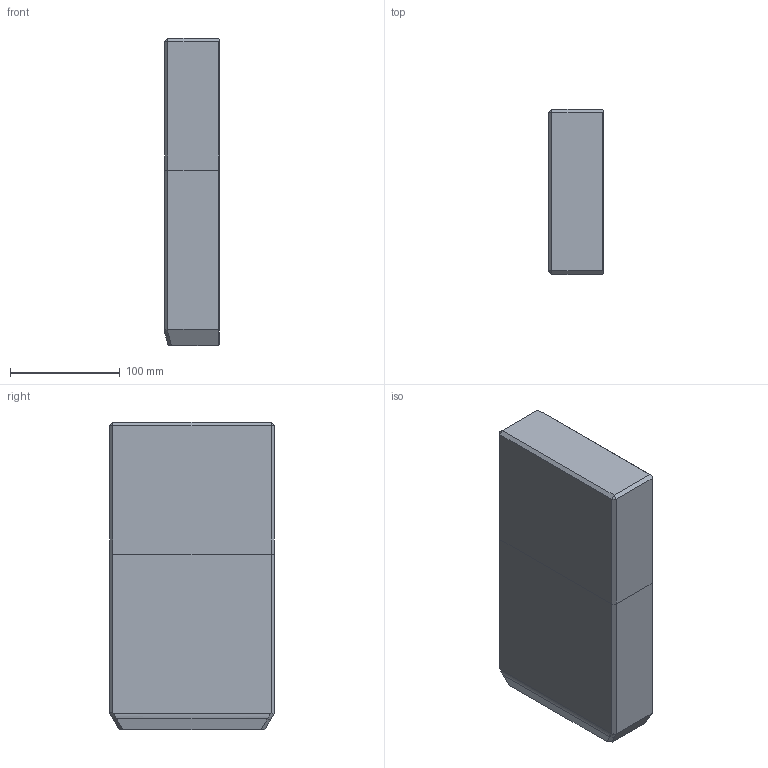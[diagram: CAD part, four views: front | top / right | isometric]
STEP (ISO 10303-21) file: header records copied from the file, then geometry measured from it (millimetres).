
FILE_DESCRIPTION((''),'2;1');
FILE_NAME('','2010-08-30T18:07:11+09:00',('misumi'),(''),'M/STEP i/f 1R2-14','CADmeister v5.1','');
FILE_SCHEMA(('AUTOMOTIVE_DESIGN'));
Length unit declared in the file: millimetre
Products named in the file (1): OGG150-280
Bounding box: 50 x 150 x 280 mm (x, y, z)
Volume: 2083184.5 mm3; surface area: 124862.1 mm2
Topology: 1 solids, 1 shells, 36 faces, 82 edges, 49 vertices
Faces by surface type: plane 28, bspline 5, cylinder 3
Entity records: 1556 total; most frequent: CARTESIAN_POINT 711, ORIENTED_EDGE 164, DIRECTION 134, EDGE_CURVE 82, LINE 62, VECTOR 62, VERTEX_POINT 49, EDGE_LOOP 37
